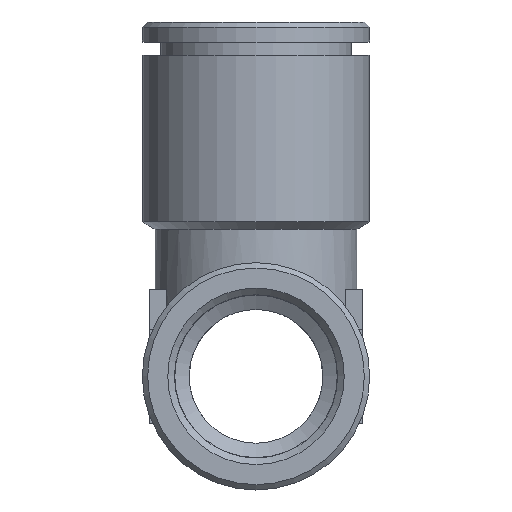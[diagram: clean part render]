
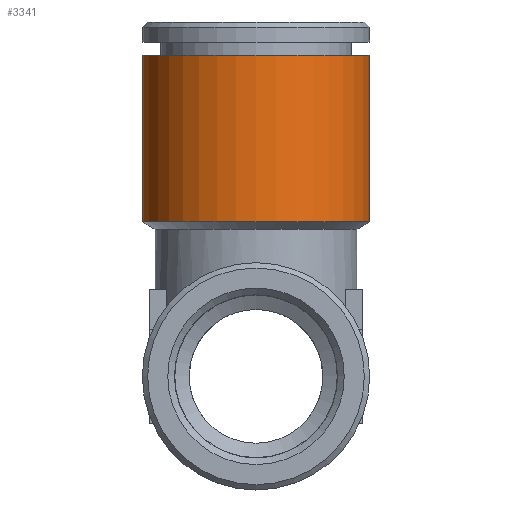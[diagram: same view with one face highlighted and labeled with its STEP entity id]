
A CAD part, left-side view. The second image highlights one B-rep face of the part: STEP entity #3341.
In plain terms, the highlighted cylindrical face has radius 8.5 mm (diameter 17 mm), a full revolution.
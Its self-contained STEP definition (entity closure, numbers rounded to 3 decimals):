
#1560=ORIENTED_EDGE('',*,*,#1955,.T.);
#1561=ORIENTED_EDGE('',*,*,#1956,.T.);
#1748=CIRCLE('',#3176,8.5);
#1749=CIRCLE('',#3178,8.5);
#1845=VERTEX_POINT('',#2932);
#1846=VERTEX_POINT('',#2935);
#1955=EDGE_CURVE('',#1845,#1845,#1748,.T.);
#1956=EDGE_CURVE('',#1846,#1846,#1749,.T.);
#2071=EDGE_LOOP('',(#1560));
#2072=EDGE_LOOP('',(#1561));
#2225=FACE_BOUND('',#2071,.T.);
#2226=FACE_BOUND('',#2072,.T.);
#2469=DIRECTION('',(-1.,0.,0.));
#2470=DIRECTION('',(0.,0.,-8.5));
#2471=DIRECTION('',(1.,0.,0.));
#2472=DIRECTION('',(0.,1.,0.));
#2473=DIRECTION('',(1.,0.,0.));
#2474=DIRECTION('',(0.,8.5,0.));
#2932=CARTESIAN_POINT('',(-22.728,-29.877,-8.5));
#2933=CARTESIAN_POINT('',(-22.728,-29.877,0.));
#2934=CARTESIAN_POINT('',(-35.18,-29.877,0.));
#2935=CARTESIAN_POINT('',(-35.18,-21.377,0.));
#2936=CARTESIAN_POINT('',(-35.18,-29.877,0.));
#3176=AXIS2_PLACEMENT_3D('',#2933,#2469,#2470);
#3177=AXIS2_PLACEMENT_3D('',#2934,#2471,#2472);
#3178=AXIS2_PLACEMENT_3D('',#2936,#2473,#2474);
#3298=CYLINDRICAL_SURFACE('',#3177,8.5);
#3341=ADVANCED_FACE('',(#2225,#2226),#3298,.T.);
